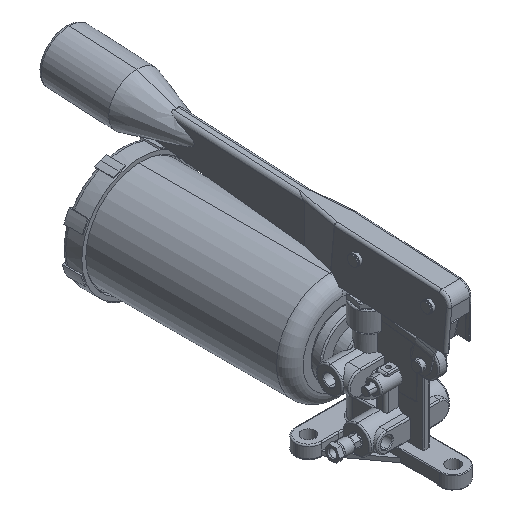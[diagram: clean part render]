
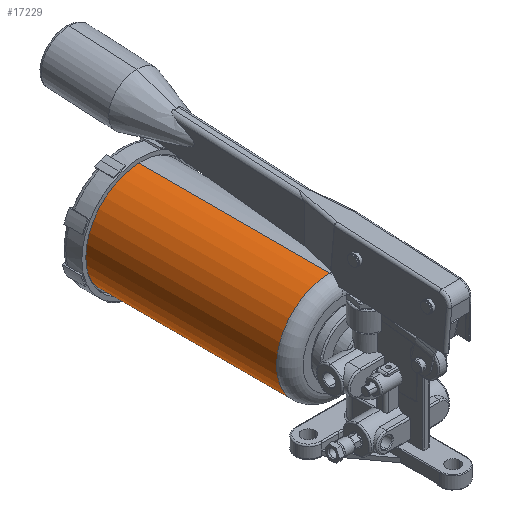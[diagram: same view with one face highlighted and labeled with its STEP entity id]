
A CAD part, isometric view. The second image highlights one B-rep face of the part: STEP entity #17229.
In plain terms, the highlighted cylindrical face has radius 40 mm (diameter 80 mm), a partial arc.
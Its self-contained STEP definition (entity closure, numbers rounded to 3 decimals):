
#198 = ORIENTED_EDGE ( 'NONE', *, *, #13661, .F. ) ;
#308 = CARTESIAN_POINT ( 'NONE',  ( 60.267, 74.187, 124.337 ) ) ;
#389 = VERTEX_POINT ( 'NONE', #308 ) ;
#853 = DIRECTION ( 'NONE',  ( 0., 0., 1. ) ) ;
#1738 = LINE ( 'NONE', #18339, #5406 ) ;
#1774 = VERTEX_POINT ( 'NONE', #5985 ) ;
#2285 = DIRECTION ( 'NONE',  ( 0., -1., 0. ) ) ;
#3492 = CARTESIAN_POINT ( 'NONE',  ( 60.267, 62.187, 84.337 ) ) ;
#3628 = DIRECTION ( 'NONE',  ( 0., -1., 0. ) ) ;
#3694 = ORIENTED_EDGE ( 'NONE', *, *, #9905, .F. ) ;
#4406 = DIRECTION ( 'NONE',  ( 0., -1., 0. ) ) ;
#5406 = VECTOR ( 'NONE', #4406, 1000. ) ;
#5641 = CARTESIAN_POINT ( 'NONE',  ( 60.267, 218.687, 124.337 ) ) ;
#5985 = CARTESIAN_POINT ( 'NONE',  ( 60.267, 74.187, 44.337 ) ) ;
#6686 = FACE_OUTER_BOUND ( 'NONE', #12125, .T. ) ;
#6758 = VERTEX_POINT ( 'NONE', #5641 ) ;
#6867 = DIRECTION ( 'NONE',  ( 0., 0., 1. ) ) ;
#7110 = CARTESIAN_POINT ( 'NONE',  ( 60.267, 218.687, 84.337 ) ) ;
#7905 = VECTOR ( 'NONE', #8196, 1000. ) ;
#8024 = AXIS2_PLACEMENT_3D ( 'NONE', #16230, #3628, #6867 ) ;
#8196 = DIRECTION ( 'NONE',  ( 0., -1., 0. ) ) ;
#8227 = DIRECTION ( 'NONE',  ( 0., 0., 1. ) ) ;
#8414 = AXIS2_PLACEMENT_3D ( 'NONE', #7110, #2285, #853 ) ;
#8675 = ORIENTED_EDGE ( 'NONE', *, *, #16384, .T. ) ;
#8899 = EDGE_CURVE ( 'NONE', #13620, #1774, #13529, .T. ) ;
#9605 = AXIS2_PLACEMENT_3D ( 'NONE', #3492, #17800, #8227 ) ;
#9905 = EDGE_CURVE ( 'NONE', #6758, #389, #1738, .T. ) ;
#10627 = CIRCLE ( 'NONE', #8414, 40. ) ;
#12125 = EDGE_LOOP ( 'NONE', ( #8675, #14288, #198, #3694 ) ) ;
#12893 = CARTESIAN_POINT ( 'NONE',  ( 60.267, 62.187, 44.337 ) ) ;
#13529 = LINE ( 'NONE', #12893, #7905 ) ;
#13620 = VERTEX_POINT ( 'NONE', #17949 ) ;
#13661 = EDGE_CURVE ( 'NONE', #389, #1774, #18916, .T. ) ;
#14288 = ORIENTED_EDGE ( 'NONE', *, *, #8899, .T. ) ;
#16230 = CARTESIAN_POINT ( 'NONE',  ( 60.267, 74.187, 84.337 ) ) ;
#16384 = EDGE_CURVE ( 'NONE', #6758, #13620, #10627, .T. ) ;
#17229 = ADVANCED_FACE ( 'NONE', ( #6686 ), #19697, .T. ) ;
#17800 = DIRECTION ( 'NONE',  ( 0., -1., 0. ) ) ;
#17949 = CARTESIAN_POINT ( 'NONE',  ( 60.267, 218.687, 44.337 ) ) ;
#18339 = CARTESIAN_POINT ( 'NONE',  ( 60.267, 62.187, 124.337 ) ) ;
#18916 = CIRCLE ( 'NONE', #8024, 40. ) ;
#19697 = CYLINDRICAL_SURFACE ( 'NONE', #9605, 40. ) ;
